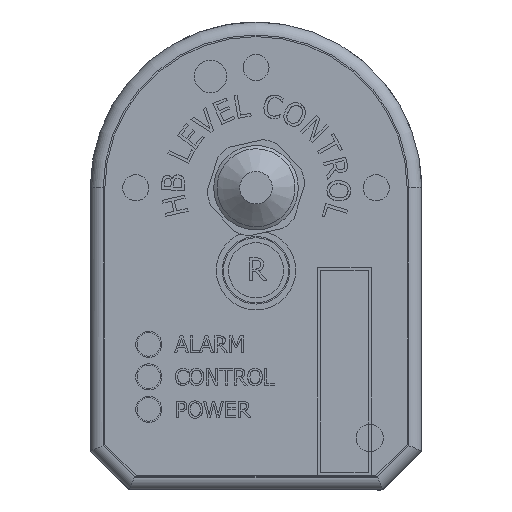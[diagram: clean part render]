
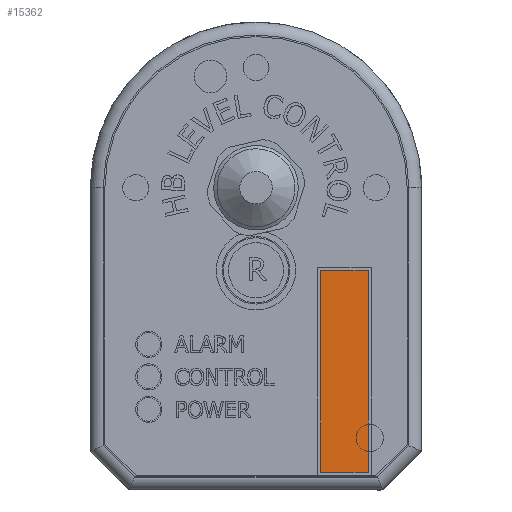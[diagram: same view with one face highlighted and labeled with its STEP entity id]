
A CAD part, left-side view. The second image highlights one B-rep face of the part: STEP entity #15362.
In plain terms, the highlighted planar face has unit normal (-1, 0, 0).
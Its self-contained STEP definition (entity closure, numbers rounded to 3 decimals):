
#15323=CARTESIAN_POINT('',(-142.098,-23.1,-31.217));
#15324=DIRECTION('',(-1.0,0.,0.));
#15325=DIRECTION('',(0.,-1.0,0.));
#15326=AXIS2_PLACEMENT_3D('',#15323,#15324,#15325);
#15327=PLANE('',#15326);
#15328=CARTESIAN_POINT('',(-142.098,-26.75,-46.717));
#15329=VERTEX_POINT('',#15328);
#15330=CARTESIAN_POINT('',(-142.098,-19.45,-46.717));
#15331=VERTEX_POINT('',#15330);
#15332=CARTESIAN_POINT('',(-142.098,-26.75,-46.717));
#15333=DIRECTION('',(0.,1.0,0.));
#15334=VECTOR('',#15333,7.3);
#15335=LINE('',#15332,#15334);
#15336=EDGE_CURVE('',#15329,#15331,#15335,.T.);
#15337=ORIENTED_EDGE('',*,*,#15336,.F.);
#15338=CARTESIAN_POINT('',(-142.098,-26.75,-15.717));
#15339=VERTEX_POINT('',#15338);
#15340=CARTESIAN_POINT('',(-142.098,-26.75,-15.717));
#15341=DIRECTION('',(0.,0.,-1.0));
#15342=VECTOR('',#15341,31.);
#15343=LINE('',#15340,#15342);
#15344=EDGE_CURVE('',#15339,#15329,#15343,.T.);
#15345=ORIENTED_EDGE('',*,*,#15344,.F.);
#15346=CARTESIAN_POINT('',(-142.098,-19.45,-15.717));
#15347=VERTEX_POINT('',#15346);
#15348=CARTESIAN_POINT('',(-142.098,-19.45,-15.717));
#15349=DIRECTION('',(0.,-1.0,0.));
#15350=VECTOR('',#15349,7.3);
#15351=LINE('',#15348,#15350);
#15352=EDGE_CURVE('',#15347,#15339,#15351,.T.);
#15353=ORIENTED_EDGE('',*,*,#15352,.F.);
#15354=CARTESIAN_POINT('',(-142.098,-19.45,-46.717));
#15355=DIRECTION('',(0.,0.,1.0));
#15356=VECTOR('',#15355,31.);
#15357=LINE('',#15354,#15356);
#15358=EDGE_CURVE('',#15331,#15347,#15357,.T.);
#15359=ORIENTED_EDGE('',*,*,#15358,.F.);
#15360=EDGE_LOOP('',(#15337,#15345,#15353,#15359));
#15361=FACE_OUTER_BOUND('',#15360,.T.);
#15362=ADVANCED_FACE('',(#15361),#15327,.T.);
